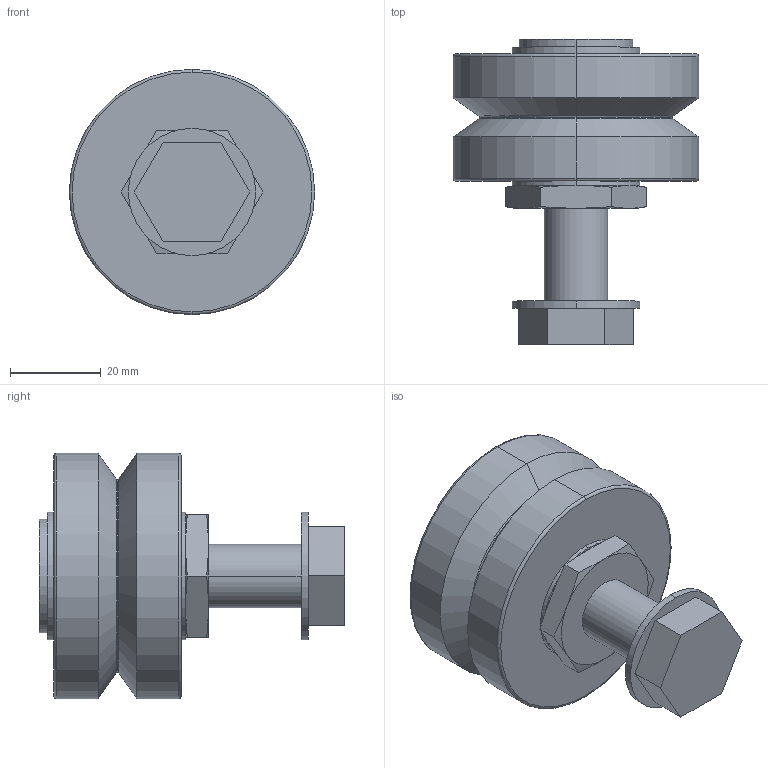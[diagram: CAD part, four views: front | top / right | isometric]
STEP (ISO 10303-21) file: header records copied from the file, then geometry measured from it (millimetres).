
FILE_DESCRIPTION(('STEP AP203'),'1');
FILE_NAME('rlfj_54_c_ns.stp','2021-08-30T07:31:56',('TraceParts'),('TraceParts S.A.'),'Spatial InterOp 3D',' ',' ');
FILE_SCHEMA(('CONFIG_CONTROL_DESIGN'));
Length unit declared in the file: millimetre
Products named in the file (1): 1
Bounding box: 54 x 67.2 x 54 mm (x, y, z)
Volume: 72753.1 mm3; surface area: 23475.1 mm2
Topology: 3 solids, 3 shells, 69 faces, 148 edges, 90 vertices
Faces by surface type: plane 29, cylinder 16, cone 16, torus 8
Entity records: 1988 total; most frequent: CARTESIAN_POINT 430, DIRECTION 330, ORIENTED_EDGE 296, EDGE_CURVE 148, AXIS2_PLACEMENT_3D 134, VERTEX_POINT 90, EDGE_LOOP 78, ADVANCED_FACE 69
